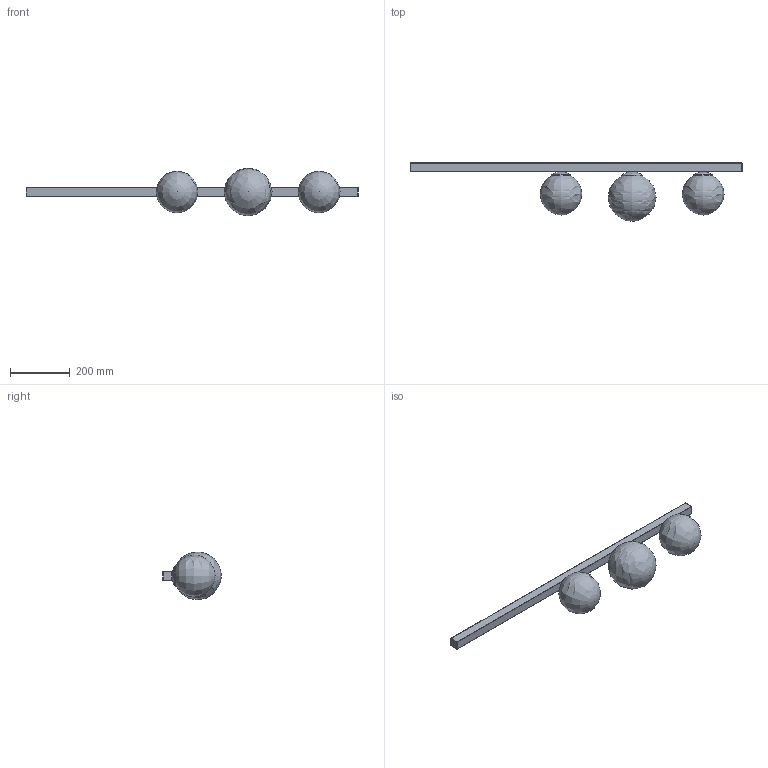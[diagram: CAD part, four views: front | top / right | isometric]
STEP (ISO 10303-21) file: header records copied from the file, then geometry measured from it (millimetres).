
FILE_DESCRIPTION ((), '1');
FILE_NAME ('C:\Users\MiCHAL\Desktop\ALDEX - Modele 3D 09.03.2023\1099Y1\1099Y1\1099Y1.stp', '2023-03-30T11:17:45', ('Unknown'), ('Unknown'), 'HarmonyWare STEP v2.1.4', 'HarmonyWare Translators', '');
FILE_SCHEMA (('CONFIG_CONTROL_DESIGN'));
Length unit declared in the file: centimetre
Assembly tree (7 placements, depth 2):
  (unnamed)
    (unnamed)
    (unnamed)
    (unnamed)
    (unnamed)
    (unnamed)
    (unnamed)
    (unnamed)
Bounding box: 1110 x 195.4 x 159.86 mm (x, y, z)
Volume: 6090915.5 mm3; surface area: 358226.2 mm2
Topology: 7 solids, 7 shells, 38 faces, 83 edges, 44 vertices
Faces by surface type: bspline 38
Entity records: 2997 total; most frequent: CARTESIAN_POINT 1505, ORIENTED_EDGE 126, PERSON 78, ORGANIZATION 78, PERSON_AND_ORGANIZATION 78, EDGE_CURVE 63, CALENDAR_DATE 54, COORDINATED_UNIVERSAL_TIME_OFFSET 54
